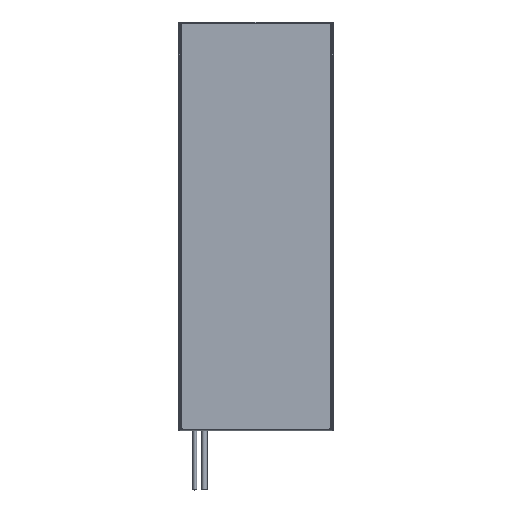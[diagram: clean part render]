
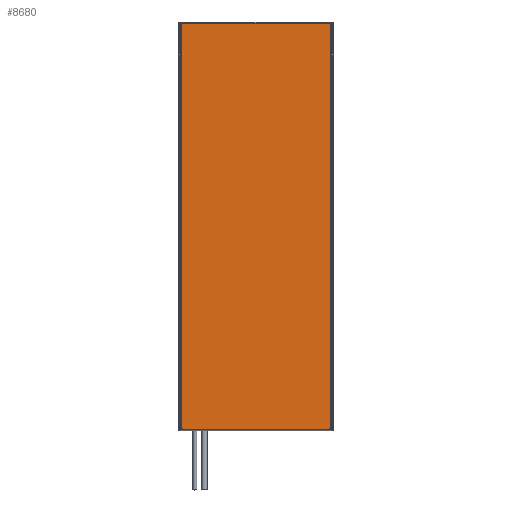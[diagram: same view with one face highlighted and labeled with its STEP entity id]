
A CAD part, top view. The second image highlights one B-rep face of the part: STEP entity #8680.
In plain terms, the highlighted planar face has unit normal (0, 0, 1).
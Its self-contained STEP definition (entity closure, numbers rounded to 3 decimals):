
#539 = AXIS2_PLACEMENT_3D ( 'NONE', #3486, #8183, #950 ) ;
#950 = DIRECTION ( 'NONE',  ( 1., 0., 0. ) ) ;
#1086 = EDGE_CURVE ( 'NONE', #1486, #7805, #5734, .T. ) ;
#1090 = DIRECTION ( 'NONE',  ( 1., 0., 0. ) ) ;
#1288 = VECTOR ( 'NONE', #8611, 1000. ) ;
#1486 = VERTEX_POINT ( 'NONE', #3112 ) ;
#1549 = CARTESIAN_POINT ( 'NONE',  ( 63.522, 342.947, 0. ) ) ;
#1742 = LINE ( 'NONE', #6350, #4474 ) ;
#1776 = EDGE_CURVE ( 'NONE', #2484, #5042, #1742, .T. ) ;
#2011 = CARTESIAN_POINT ( 'NONE',  ( -63.862, 342.947, 0. ) ) ;
#2484 = VERTEX_POINT ( 'NONE', #11060 ) ;
#2606 = ORIENTED_EDGE ( 'NONE', *, *, #5178, .T. ) ;
#3010 = DIRECTION ( 'NONE',  ( 0., -1., 0. ) ) ;
#3112 = CARTESIAN_POINT ( 'NONE',  ( 63.522, 342.947, 0. ) ) ;
#3486 = CARTESIAN_POINT ( 'NONE',  ( 0., 0., 0. ) ) ;
#3717 = CARTESIAN_POINT ( 'NONE',  ( 63.522, 0.8, 0. ) ) ;
#3951 = DIRECTION ( 'NONE',  ( -1., 0., 0. ) ) ;
#4474 = VECTOR ( 'NONE', #1090, 1000. ) ;
#4677 = ORIENTED_EDGE ( 'NONE', *, *, #1086, .T. ) ;
#5042 = VERTEX_POINT ( 'NONE', #3717 ) ;
#5178 = EDGE_CURVE ( 'NONE', #7805, #2484, #6509, .T. ) ;
#5734 = LINE ( 'NONE', #7753, #7213 ) ;
#6350 = CARTESIAN_POINT ( 'NONE',  ( -63.862, 0.8, 0. ) ) ;
#6421 = CARTESIAN_POINT ( 'NONE',  ( -63.862, 342.947, 0. ) ) ;
#6509 = LINE ( 'NONE', #2011, #11354 ) ;
#7115 = PLANE ( 'NONE',  #539 ) ;
#7213 = VECTOR ( 'NONE', #3951, 1000. ) ;
#7753 = CARTESIAN_POINT ( 'NONE',  ( -63.862, 342.947, 0. ) ) ;
#7805 = VERTEX_POINT ( 'NONE', #6421 ) ;
#8183 = DIRECTION ( 'NONE',  ( 0., 0., 1. ) ) ;
#8452 = EDGE_CURVE ( 'NONE', #5042, #1486, #9656, .T. ) ;
#8611 = DIRECTION ( 'NONE',  ( 0., 1., 0. ) ) ;
#8680 = ADVANCED_FACE ( 'NONE', ( #11599 ), #7115, .T. ) ;
#9545 = ORIENTED_EDGE ( 'NONE', *, *, #1776, .T. ) ;
#9656 = LINE ( 'NONE', #1549, #1288 ) ;
#10348 = EDGE_LOOP ( 'NONE', ( #2606, #9545, #11639, #4677 ) ) ;
#11060 = CARTESIAN_POINT ( 'NONE',  ( -63.862, 0.8, 0. ) ) ;
#11354 = VECTOR ( 'NONE', #3010, 1000. ) ;
#11599 = FACE_OUTER_BOUND ( 'NONE', #10348, .T. ) ;
#11639 = ORIENTED_EDGE ( 'NONE', *, *, #8452, .T. ) ;
